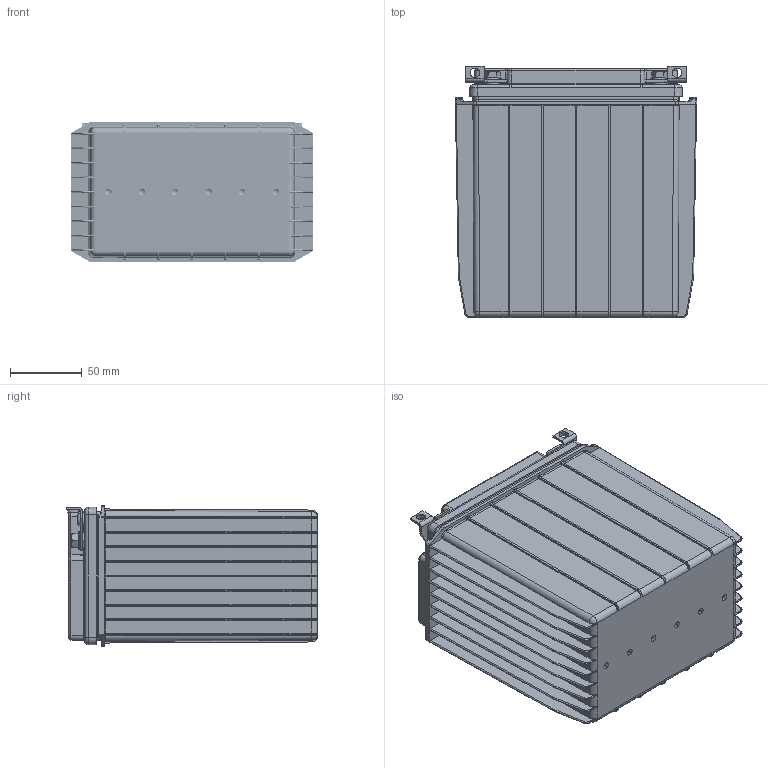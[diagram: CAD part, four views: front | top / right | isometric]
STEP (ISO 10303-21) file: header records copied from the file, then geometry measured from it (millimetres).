
FILE_DESCRIPTION (( 'STEP AP203' ), '1' );
FILE_NAME ('ODS-AGM16CL.STEP', '2024-03-25T15:32:57', ( '' ), ( '' ), 'SwSTEP 2.0', 'SolidWorks 2022', '' );
FILE_SCHEMA (( 'CONFIG_CONTROL_DESIGN' ));
Length unit declared in the file: inch
Products named in the file (1): ODS-AGM16CL
Bounding box: 168.63 x 175.26 x 98.38 mm (x, y, z)
Volume: 547717.3 mm3; surface area: 512661.4 mm2
Topology: 25 solids, 25 shells, 3611 faces, 9537 edges, 5980 vertices
Faces by surface type: plane 1422, cylinder 1120, bspline 517, torus 250, cone 236, sphere 66
Full cylindrical faces by diameter (mm): 0.762 x6, 4.597 x2, 5.966 x2, 6 x4, 6.02 x2, 6.172 x2, 6.35 x4, 6.6 x2, 6.782 x2, 7.62 x4, 7.925 x5, 9.525 x2, 10.16 x2
Entity records: 124426 total; most frequent: CARTESIAN_POINT 44320, ORIENTED_EDGE 18450, DIRECTION 14407, EDGE_CURVE 9225, VERTEX_POINT 5906, AXIS2_PLACEMENT_3D 4954, VECTOR 4499, LINE 4499
